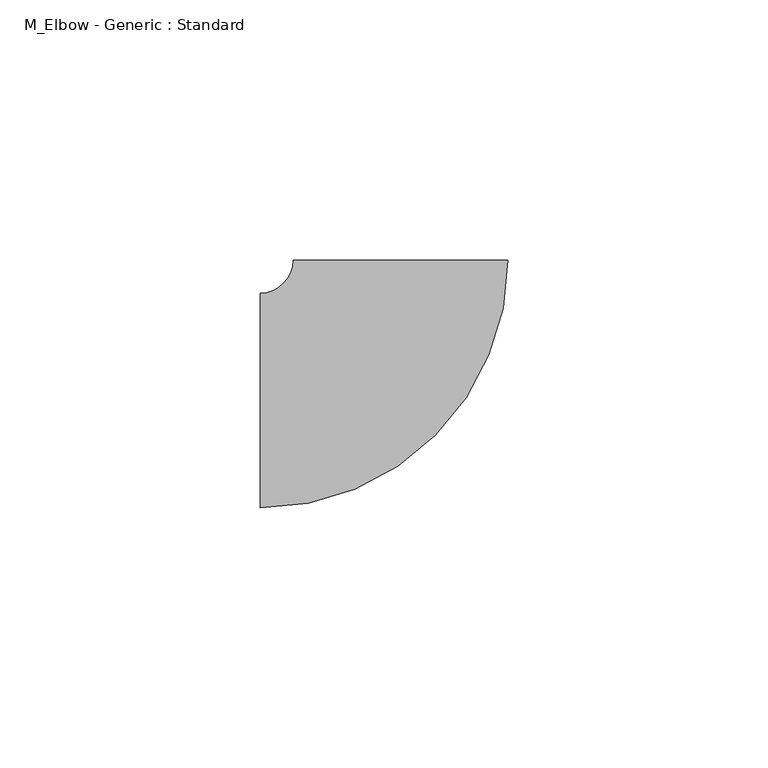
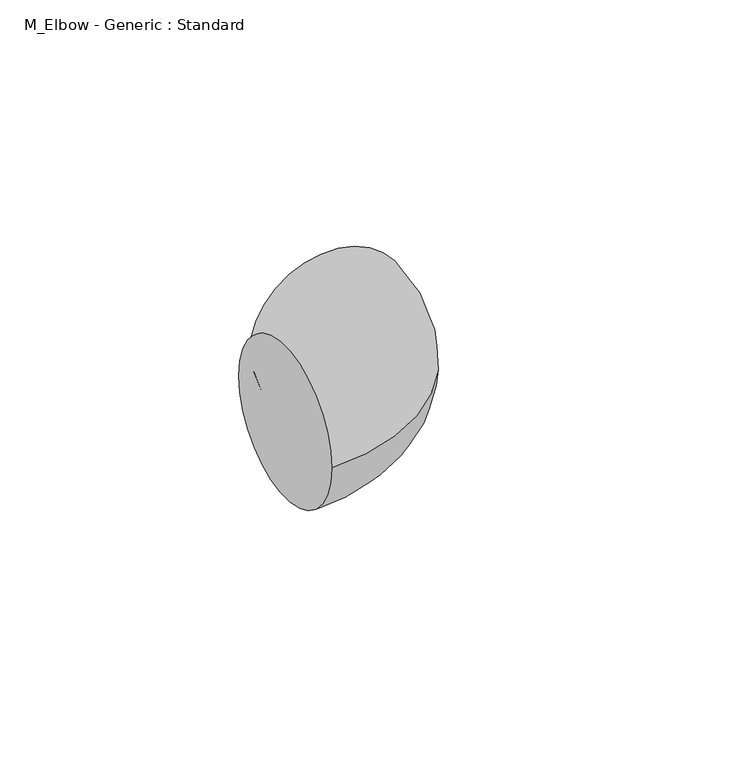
"""IFC4 building model written with IfcOpenShell, lengths in millimetres: pipe fitting geometry, M_Elbow - Generic : Standard."""

from ifc_helpers import new_model, si_unit, point, frame, origin, place, context, project, spatial, circle_curve, ellipse_curve, trimmed, source, transform, mapped, element, save
from ifc_brep_helpers import plane_surface, revolved_surface, advanced_brep


def m_elbow_generic_standard_371413ad(model_context):
    return source(origin(), model_context, "Body", "AdvancedBrep", [
        advanced_brep(
        [(-26.9875, -20.6375, 0.0), (-26.9875, 20.6375, 0.0), (20.6375, 26.9875, 0.0), (-20.6375, 26.9875, 0.0)],
        [
            (0, 1, circle_curve(frame((-26.9875, 0.0, 0.0), z_axis=(-1.0, 0.0, 0.0), x_axis=(0.0, 1.0, 0.0)), 20.6375)),
            (1, 0, circle_curve(frame((-26.9875, 0.0, 0.0), z_axis=(-1.0, 0.0, 0.0), x_axis=(0.0, 1.0, 0.0)), 20.6375)),
            (2, 3, circle_curve(frame((0.0, 26.9875, 0.0), z_axis=(0.0, 1.0, 0.0), x_axis=(-1.0, 0.0, 0.0)), 20.6375)),
            (3, 2, circle_curve(frame((0.0, 26.9875, 0.0), z_axis=(0.0, 1.0, 0.0), x_axis=(-1.0, 0.0, 0.0)), 20.6375)),
            (3, 1, circle_curve(frame((-26.9875, 26.9875, 0.0), z_axis=(0.0, 0.0, -1.0), x_axis=(0.0, -1.0, 0.0)), 6.35)),
            (0, 2, circle_curve(frame((-26.9875, 26.9875, 0.0), z_axis=(0.0, 0.0, 1.0), x_axis=(0.0, -1.0, 0.0)), 47.625)),
        ],
        [
            plane_surface(frame((-26.9875, 0.0, 0.0), z_axis=(-1.0, 0.0, 0.0), x_axis=(0.0, 0.0, 1.0))),
            plane_surface(frame((0.0, 26.9875, 0.0), z_axis=(0.0, 1.0, 0.0), x_axis=(0.0, 0.0, 1.0))),
            revolved_surface(trimmed(ellipse_curve(frame((-26.9875, 0.0, 0.0), z_axis=(-1.0, 0.0, 0.0), x_axis=(0.0, 1.0, 0.0)), 20.6375, 20.6375), [point((-26.9875, -20.6375, 0.0))], [point((-26.9875, 20.6375, 0.0))], True, "CARTESIAN"), (-26.9875, 26.9875, 0.0), (0.0, 0.0, 1.0)),
            revolved_surface(trimmed(ellipse_curve(frame((-26.9875, 0.0, 0.0), z_axis=(-1.0, 0.0, 0.0), x_axis=(0.0, 1.0, 0.0)), 20.6375, 20.6375), [point((-26.9875, 20.6375, 0.0))], [point((-26.9875, -20.6375, 0.0))], True, "CARTESIAN"), (-26.9875, 26.9875, 0.0), (0.0, 0.0, 1.0)),
        ],
        [
            (0, [[1, 2]]),
            (1, [[3, 4]]),
            (2, [[5, -1, 6, -4]]),
            (3, [[-6, -2, -5, -3]]),
        ],
    ),
    ])


if __name__ == "__main__":
    model = new_model("IFC4")
    model_context = context("Model", 3, world=origin())
    ifc_project = project(units=[si_unit("LENGTHUNIT", "METRE", prefix="MILLI")], contexts=[model_context])
    site = spatial("IfcSite", under=ifc_project)
    building = spatial("IfcBuilding", under=site)
    placement = place(None, origin())
    m_elbow_generic_standard_shape = m_elbow_generic_standard_371413ad(model_context)
    element("IfcPipeFitting", 1, ObjectType="M_Elbow - Generic : Standard", at=placement, inside=building, context=model_context, shape_type="MappedRepresentation", body=[
        mapped(m_elbow_generic_standard_shape, transform((0.0, 0.0, 0.0), x_axis=(1.0, 0.0, 0.0), y_axis=(0.0, 1.0, 0.0), z_axis=(0.0, 0.0, 1.0))),
    ])
    save(model, "model.ifc")
